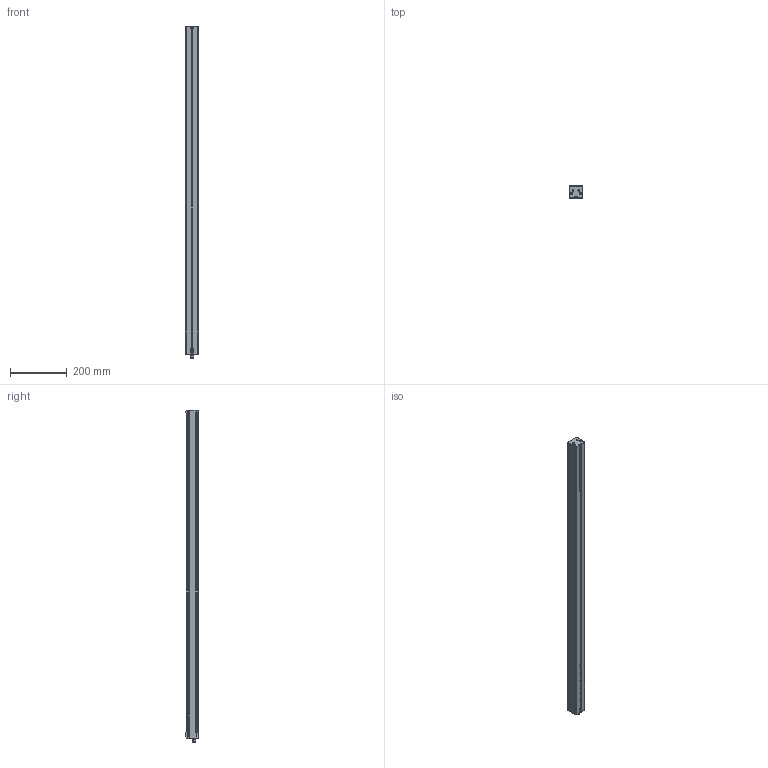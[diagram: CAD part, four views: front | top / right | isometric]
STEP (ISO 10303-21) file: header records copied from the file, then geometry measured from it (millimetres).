
FILE_DESCRIPTION (( 'STEP AP214' ), '1' );
FILE_NAME ('EBAR-HPS-1125-xxx-UN_CLIENT.STEP', '2025-11-18T12:02:41', ( '' ), ( '' ), 'SwSTEP 2.0', 'SolidWorks 2025', '' );
FILE_SCHEMA (( 'AUTOMOTIVE_DESIGN' ));
Length unit declared in the file: millimetre
Products named in the file (3): EBAR-HPS-1125-xxx-UN_CLIENT; M4 T-Slot Nut; EBAR-HPS-xxx-xxx-xx_CLIENT - T-Power_1125
Assembly tree (37 placements, depth 2):
  EBAR-HPS-1125-xxx-UN_CLIENT
    EBAR-HPS-xxx-xxx-xx_CLIENT - T-Power_1125
    M4 T-Slot Nut  x36
Bounding box: 47.63 x 45 x 1170.06 mm (x, y, z)
Volume: 1972608.3 mm3; surface area: 288704.1 mm2
Topology: 37 solids, 37 shells, 1424 faces, 3688 edges, 2428 vertices
Faces by surface type: plane 799, cylinder 371, bspline 140, torus 62, sphere 40, cone 12
Entity records: 29649 total; most frequent: CARTESIAN_POINT 10335, ORIENTED_EDGE 4138, DIRECTION 3640, EDGE_CURVE 2069, VERTEX_POINT 1343, AXIS2_PLACEMENT_3D 1252, LINE 1136, VECTOR 1136
